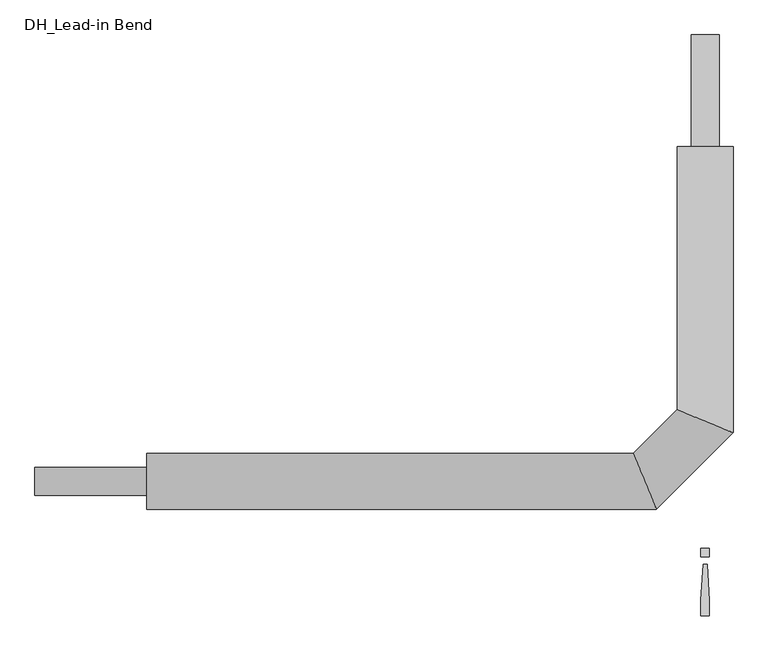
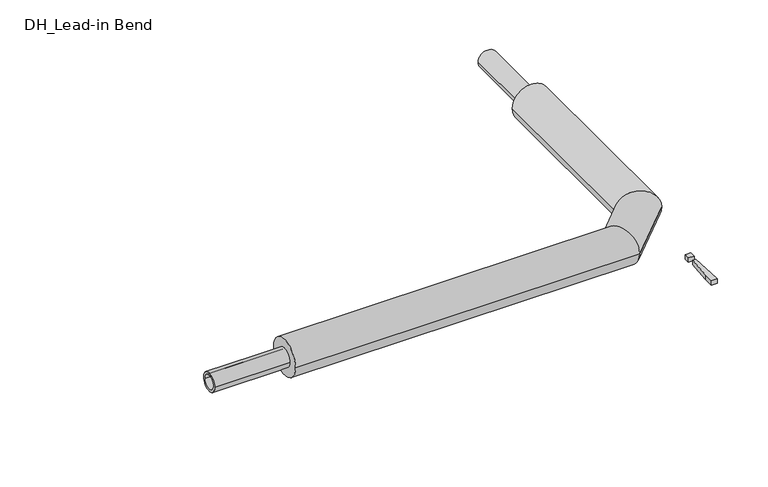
"""IFC4 building model written with IfcOpenShell, lengths in millimetres: pipe fitting geometry, DH_Lead-in Bend : INSULPEX UNO 7.4 DW."""

from ifc_helpers import new_model, si_unit, point, frame, origin, origin_with_axes, origin_2d, place, context, project, spatial, polyline, circle_curve, ellipse_curve, trimmed, segment, composite_curve, outline, extrude, source, transform, mapped, element, save
from ifc_brep_helpers import plane_surface, cylinder_surface, advanced_brep


def dh_lead_in_bend_6452c113(model_context):
    return source(origin(), model_context, "Body", "SolidModel", [
        advanced_brep(
        [(-1250.0, -62.5, 0.0), (-1250.0, 62.5, 0.0), (-109.1116524, -62.5, 0.0), (-160.8883476, 62.5, 0.0), (62.5, 750.0, 0.0), (-62.5, 750.0, 0.0), (-62.5, 160.8883476, 0.0), (62.5, 109.1116524, 0.0)],
        [
            (0, 1, circle_curve(frame((-1250.0, 0.0, 0.0), z_axis=(-1.0, 0.0, 0.0), x_axis=(0.0, 1.0, 0.0)), 62.5)),
            (1, 0, circle_curve(frame((-1250.0, 0.0, 0.0), z_axis=(-1.0, 0.0, 0.0), x_axis=(0.0, 1.0, 0.0)), 62.5)),
            (0, 2),
            (2, 3, ellipse_curve(frame((-135.0, 0.0, 0.0), z_axis=(-0.9238795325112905, -0.3826834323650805, 0.0), x_axis=(-0.38268343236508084, 0.9238795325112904, 0.0)), 67.6495125, 62.5)),
            (3, 1),
            (3, 2, ellipse_curve(frame((-135.0, 0.0, 0.0), z_axis=(-0.9238795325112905, -0.3826834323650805, 0.0), x_axis=(-0.38268343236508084, 0.9238795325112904, 0.0)), 67.6495125, 62.5)),
            (4, 5, circle_curve(frame((0.0, 750.0, 0.0), z_axis=(0.0, 1.0, 0.0), x_axis=(-1.0, 0.0, 0.0)), 62.5)),
            (5, 4, circle_curve(frame((0.0, 750.0, 0.0), z_axis=(0.0, 1.0, 0.0), x_axis=(-1.0, 0.0, 0.0)), 62.5)),
            (6, 7, ellipse_curve(frame((0.0, 135.0, 0.0), z_axis=(0.382683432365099, 0.923879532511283, 0.0), x_axis=(0.923879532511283, -0.3826834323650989, 0.0)), 67.6495125, 62.5)),
            (7, 4),
            (5, 6),
            (7, 6, ellipse_curve(frame((0.0, 135.0, 0.0), z_axis=(0.382683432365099, 0.923879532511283, 0.0), x_axis=(0.923879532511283, -0.3826834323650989, 0.0)), 67.6495125, 62.5)),
            (2, 7),
            (6, 3),
        ],
        [
            plane_surface(frame((-1250.0, 0.0, 0.0), z_axis=(-1.0, 0.0, 0.0), x_axis=(0.0, 0.0, 1.0))),
            cylinder_surface(frame((-1250.0, 0.0, 0.0), z_axis=(-1.0, 0.0, 0.0), x_axis=(0.0, 1.0, 0.0)), 62.5),
            plane_surface(frame((0.0, 750.0, 0.0), z_axis=(0.0, 1.0, 0.0), x_axis=(0.0, 0.0, 1.0))),
            cylinder_surface(frame((0.0, 135.0, 0.0), z_axis=(0.0, -1.0, 0.0), x_axis=(-1.0, 0.0, 0.0)), 62.5),
            cylinder_surface(frame((-135.0, 0.0, 0.0), z_axis=(-0.7071067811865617, -0.7071067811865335, 0.0), x_axis=(-0.7071067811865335, 0.7071067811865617, 0.0)), 62.5),
        ],
        [
            (0, [[1, 2]]),
            (1, [[-1, 3, 4, 5]]),
            (1, [[-2, -5, 6, -3]]),
            (2, [[7, 8]]),
            (3, [[9, 10, -8, 11]]),
            (3, [[12, -11, -7, -10]]),
            (4, [[-4, 13, -9, 14]]),
            (4, [[-6, -14, -12, -13]]),
        ],
    ),
        extrude(outline(polyline([(4.7088895, -185.3166715), (9.4177791, -266.6553807), (9.4177791, -300.6844652), (-9.4177791, -300.6844652), (-9.4177791, -266.6553807), (-4.7088895, -185.3166715), (4.7088895, -185.3166715)])), origin_with_axes(), (0.0, 0.0, 1.0), 15.0),
        extrude(outline(polyline([(9.4177791, -150.0), (9.4177791, -168.8355582), (-9.4177791, -168.8355582), (-9.4177791, -150.0), (9.4177791, -150.0)])), origin_with_axes(), (0.0, 0.0, 1.0), 15.0),
        extrude(outline(composite_curve([segment(trimmed(circle_curve(origin_2d(), 31.5), [point((-31.5, 0.0))], [point((31.5, 0.0))], False, "CARTESIAN"), True, "CONTINUOUS"), segment(trimmed(circle_curve(origin_2d(), 31.5), [point((31.5, 0.0))], [point((-31.5, 0.0))], False, "CARTESIAN"), True, "CONTINUOUS")], self_intersect=False), holes=[composite_curve([segment(trimmed(circle_curve(origin_2d(), 22.9), [point((-22.9, 0.0))], [point((22.9, 0.0))], True, "CARTESIAN"), True, "CONTINUOUS"), segment(trimmed(circle_curve(origin_2d(), 22.9), [point((22.9, 0.0))], [point((-22.9, 0.0))], True, "CARTESIAN"), True, "CONTINUOUS")], self_intersect=False)]), frame((-1500.0, 0.0, 0.0), z_axis=(1.0, 0.0, 0.0), x_axis=(0.0, 1.0, 0.0)), (0.0, 0.0, 1.0), 250.0),
        extrude(outline(composite_curve([segment(trimmed(circle_curve(origin_2d(), 31.5), [point((0.0, 31.5))], [point((0.0, -31.5))], False, "CARTESIAN"), True, "CONTINUOUS"), segment(trimmed(circle_curve(origin_2d(), 31.5), [point((0.0, -31.5))], [point((0.0, 31.5))], False, "CARTESIAN"), True, "CONTINUOUS")], self_intersect=False), holes=[composite_curve([segment(trimmed(circle_curve(origin_2d(), 22.9), [point((0.0, 22.9))], [point((0.0, -22.9))], True, "CARTESIAN"), True, "CONTINUOUS"), segment(trimmed(circle_curve(origin_2d(), 22.9), [point((0.0, -22.9))], [point((0.0, 22.9))], True, "CARTESIAN"), True, "CONTINUOUS")], self_intersect=False)]), frame((0.0, 750.0, 0.0), z_axis=(0.0, 1.0, 0.0), x_axis=(0.0, 0.0, 1.0)), (0.0, 0.0, 1.0), 250.0),
    ])


if __name__ == "__main__":
    model = new_model("IFC4")
    model_context = context("Model", 3, world=origin())
    ifc_project = project(units=[si_unit("LENGTHUNIT", "METRE", prefix="MILLI")], contexts=[model_context])
    site = spatial("IfcSite", under=ifc_project)
    building = spatial("IfcBuilding", under=site)
    placement = place(None, origin())
    dh_lead_in_bend_shape = dh_lead_in_bend_6452c113(model_context)
    element("IfcPipeFitting", 1, ObjectType="DH_Lead-in Bend : INSULPEX UNO 7.4 DW", at=placement, inside=building, context=model_context, shape_type="MappedRepresentation", body=[
        mapped(dh_lead_in_bend_shape, transform((0.0, 0.0, 0.0), x_axis=(1.0, 0.0, 0.0), y_axis=(0.0, 1.0, 0.0), z_axis=(0.0, 0.0, 1.0))),
    ])
    save(model, "model.ifc")
